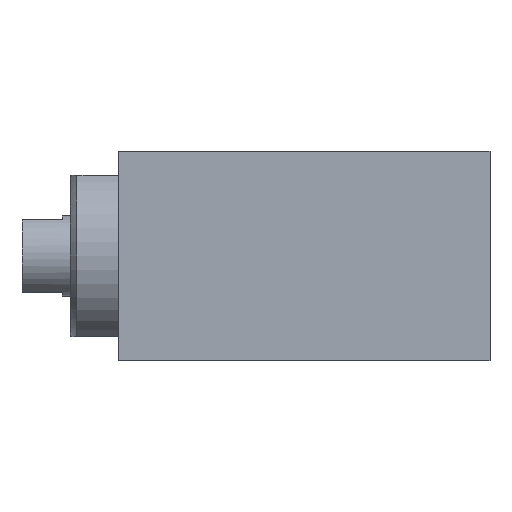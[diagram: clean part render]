
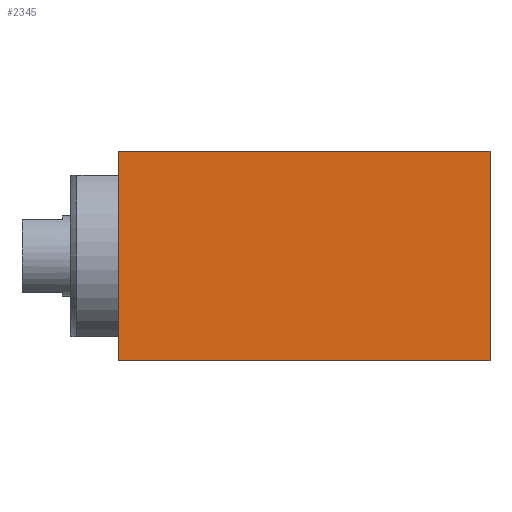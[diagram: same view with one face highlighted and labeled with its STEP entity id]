
A CAD part, front view. The second image highlights one B-rep face of the part: STEP entity #2345.
In plain terms, the highlighted planar face has unit normal (0, -1, 0).
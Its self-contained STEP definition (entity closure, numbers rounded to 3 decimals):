
#22 = EDGE_LOOP ( 'NONE', ( #1076, #1417, #623, #1156 ) ) ;
#194 = DIRECTION ( 'NONE',  ( 0., 0., 1. ) ) ;
#253 = CARTESIAN_POINT ( 'NONE',  ( 23., -11., -6.5 ) ) ;
#283 = CARTESIAN_POINT ( 'NONE',  ( 0., -11., -6.5 ) ) ;
#537 = CARTESIAN_POINT ( 'NONE',  ( 0., -11., -6.5 ) ) ;
#568 = AXIS2_PLACEMENT_3D ( 'NONE', #2136, #2583, #1925 ) ;
#623 = ORIENTED_EDGE ( 'NONE', *, *, #2534, .T. ) ;
#651 = CARTESIAN_POINT ( 'NONE',  ( 0., -11., 6.5 ) ) ;
#815 = LINE ( 'NONE', #1248, #1742 ) ;
#927 = CARTESIAN_POINT ( 'NONE',  ( 23., -11., 6.5 ) ) ;
#1076 = ORIENTED_EDGE ( 'NONE', *, *, #2722, .F. ) ;
#1156 = ORIENTED_EDGE ( 'NONE', *, *, #2026, .T. ) ;
#1248 = CARTESIAN_POINT ( 'NONE',  ( 23., -11., -6.5 ) ) ;
#1417 = ORIENTED_EDGE ( 'NONE', *, *, #2983, .F. ) ;
#1430 = FACE_OUTER_BOUND ( 'NONE', #22, .T. ) ;
#1665 = VERTEX_POINT ( 'NONE', #651 ) ;
#1742 = VECTOR ( 'NONE', #194, 1000. ) ;
#1925 = DIRECTION ( 'NONE',  ( 1., 0., 0. ) ) ;
#2026 = EDGE_CURVE ( 'NONE', #2218, #1665, #2557, .T. ) ;
#2090 = DIRECTION ( 'NONE',  ( -1., 0., 0. ) ) ;
#2119 = PLANE ( 'NONE',  #568 ) ;
#2136 = CARTESIAN_POINT ( 'NONE',  ( 23., -11., -6.5 ) ) ;
#2173 = CARTESIAN_POINT ( 'NONE',  ( 23., -11., 6.5 ) ) ;
#2179 = VERTEX_POINT ( 'NONE', #283 ) ;
#2218 = VERTEX_POINT ( 'NONE', #2173 ) ;
#2227 = VECTOR ( 'NONE', #2641, 1000. ) ;
#2297 = LINE ( 'NONE', #537, #2227 ) ;
#2336 = CARTESIAN_POINT ( 'NONE',  ( 23., -11., -6.5 ) ) ;
#2345 = ADVANCED_FACE ( 'NONE', ( #1430 ), #2119, .T. ) ;
#2513 = VECTOR ( 'NONE', #2090, 1000. ) ;
#2534 = EDGE_CURVE ( 'NONE', #2676, #2218, #815, .T. ) ;
#2557 = LINE ( 'NONE', #927, #2887 ) ;
#2569 = DIRECTION ( 'NONE',  ( -1., 0., 0. ) ) ;
#2583 = DIRECTION ( 'NONE',  ( 0., -1., 0. ) ) ;
#2641 = DIRECTION ( 'NONE',  ( 0., 0., 1. ) ) ;
#2676 = VERTEX_POINT ( 'NONE', #253 ) ;
#2722 = EDGE_CURVE ( 'NONE', #2179, #1665, #2297, .T. ) ;
#2811 = LINE ( 'NONE', #2336, #2513 ) ;
#2887 = VECTOR ( 'NONE', #2569, 1000. ) ;
#2983 = EDGE_CURVE ( 'NONE', #2676, #2179, #2811, .T. ) ;
